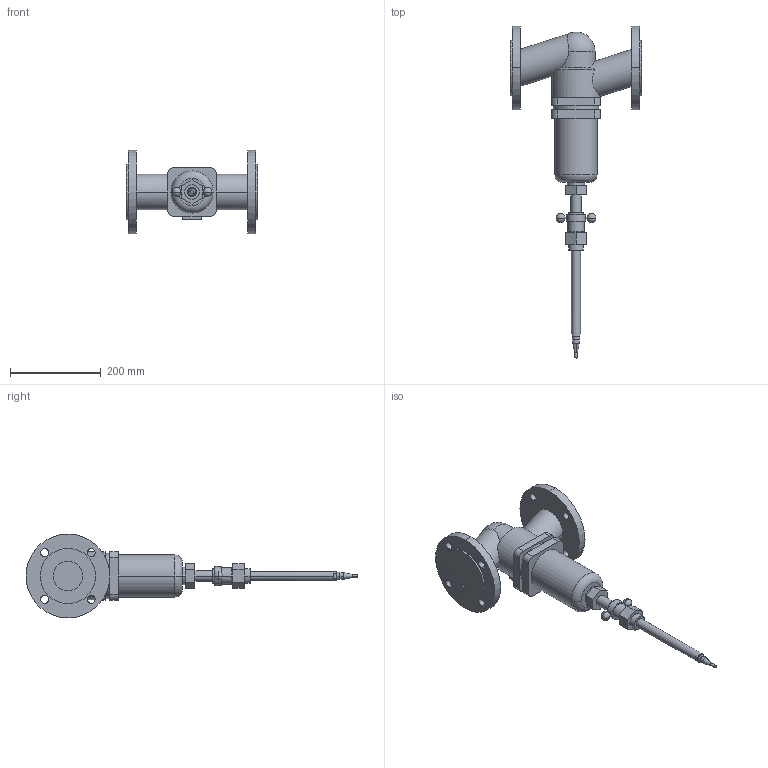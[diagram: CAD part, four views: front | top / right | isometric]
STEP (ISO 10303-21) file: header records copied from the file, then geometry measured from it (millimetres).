
FILE_DESCRIPTION(('CoCreate Modeling STEP Export'),'2;1');
FILE_NAME('c000004775.stp','2011-09-21T 9:19:49',(''),(''),'CoCreate Modeling STEP processor for AP214 (Solid Model)','CoCreate Modeling 17.0 01-Apr-2010 (C) Parametric Technology GmbH','');
FILE_SCHEMA(('AUTOMOTIVE_DESIGN { 1 0 10303 214 1 1 1 1 }'));
Length unit declared in the file: millimetre
Products named in the file (1): 1
Bounding box: 290 x 732.55 x 185 mm (x, y, z)
Volume: 4449372.2 mm3; surface area: 321046.6 mm2
Topology: 1 solids, 1 shells, 154 faces, 384 edges, 247 vertices
Faces by surface type: cylinder 74, plane 64, sphere 10, cone 4, torus 2
Entity records: 5795 total; most frequent: CARTESIAN_POINT 1221, ORIENTED_EDGE 748, DIRECTION 603, EDGE_CURVE 374, VERTEX_POINT 247, AXIS2_PLACEMENT_3D 213, EDGE_LOOP 195, VECTOR 177
